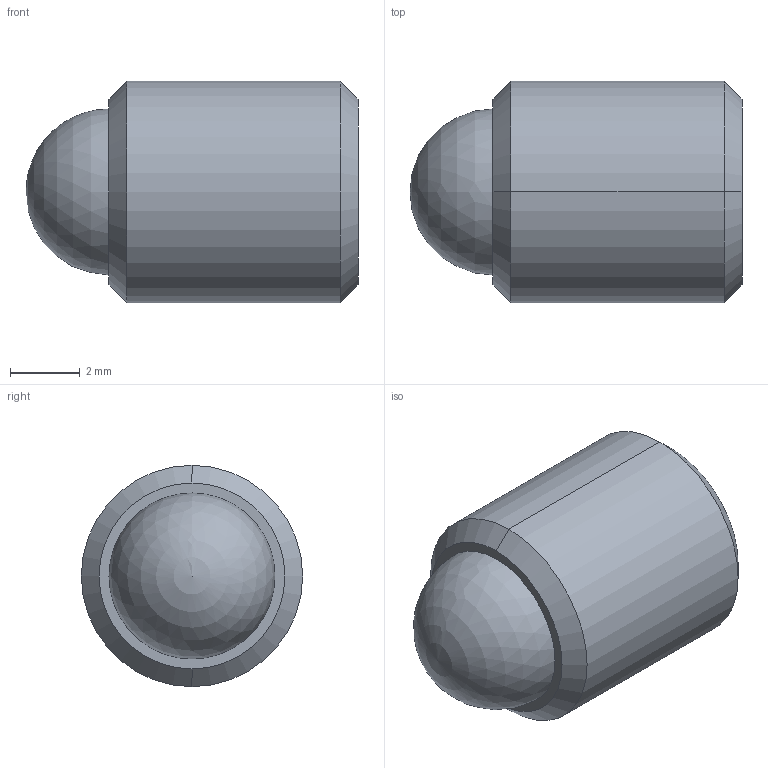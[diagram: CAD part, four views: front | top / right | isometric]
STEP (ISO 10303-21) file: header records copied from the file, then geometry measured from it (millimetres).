
FILE_DESCRIPTION (( 'STEP AP214' ), '1' );
FILE_NAME ('TS250-100-375-AA.STEP', '2013-02-13T13:56:38', ( 'workpc' ), ( 'Microsoft' ), 'SwSTEP 2.0', 'SolidWorks 2013', '' );
FILE_SCHEMA (( 'AUTOMOTIVE_DESIGN' ));
Length unit declared in the file: inch
Products named in the file (1): TS250-100-375-AA
Bounding box: 9.53 x 6.35 x 6.35 mm (x, y, z)
Volume: 234.8 mm3; surface area: 310 mm2
Topology: 2 solids, 2 shells, 20 faces, 45 edges, 29 vertices
Faces by surface type: plane 10, cylinder 4, cone 4, sphere 2
Entity records: 599 total; most frequent: DIRECTION 96, CARTESIAN_POINT 87, ORIENTED_EDGE 80, EDGE_CURVE 40, AXIS2_PLACEMENT_3D 35, VERTEX_POINT 26, LINE 26, VECTOR 26
